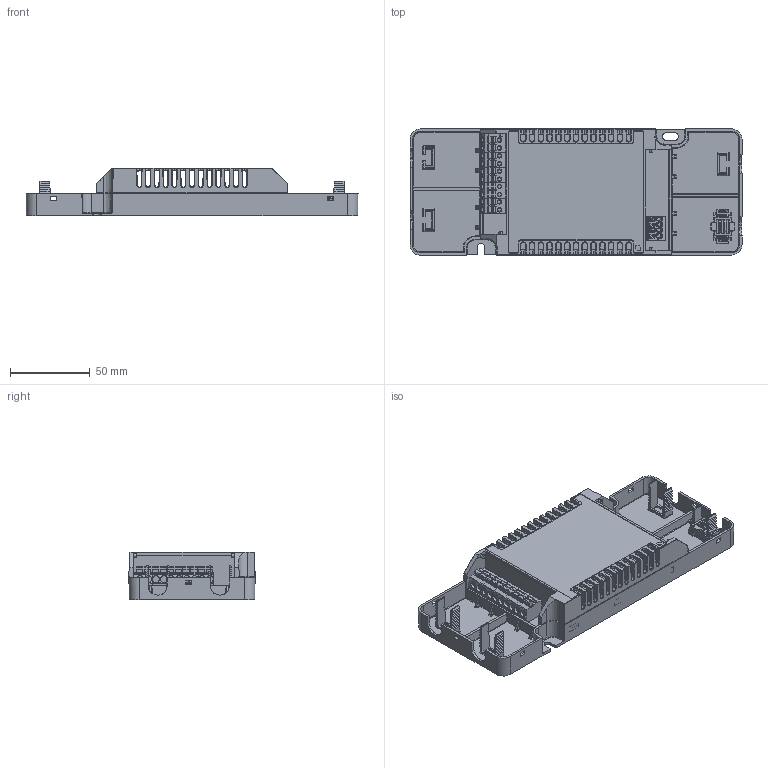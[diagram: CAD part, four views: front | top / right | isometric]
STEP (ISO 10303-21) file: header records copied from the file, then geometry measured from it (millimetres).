
FILE_DESCRIPTION (( 'STEP AP203' ), '1' );
FILE_NAME ('LC51SE-CC-900-1400-LOOP-WOSR.STEP', '2018-06-20T11:47:06', ( '' ), ( '' ), 'SwSTEP 2.0', 'SolidWorks 2014', '' );
FILE_SCHEMA (( 'CONFIG_CONTROL_DESIGN' ));
Length unit declared in the file: millimetre
Products named in the file (9): pcb; LC51SE-CC-900-1400-LOOP-WOSR; 50w monsteri_pohja 2; 50w monsteri_kansi; nipsu3; pCB; 4n; 804-102; 804-102_EI PﾄﾄTYLISUA
Assembly tree (11 placements, depth 3):
  LC51SE-CC-900-1400-LOOP-WOSR
    50w monsteri_pohja 2
    50w monsteri_kansi
    nipsu3
    pcb
      pCB
      4n
      804-102
      804-102_EI PﾄﾄTYLISUA  x4
Bounding box: 207.8 x 79 x 30 mm (x, y, z)
Volume: 89548.7 mm3; surface area: 110531.7 mm2
Topology: 10 solids, 12 shells, 3058 faces, 8013 edges, 4983 vertices
Faces by surface type: plane 1437, cylinder 1008, bspline 435, sphere 98, cone 53, torus 27
Entity records: 92380 total; most frequent: CARTESIAN_POINT 28765, ORIENTED_EDGE 14462, DIRECTION 11649, EDGE_CURVE 7231, VERTEX_POINT 4485, LINE 4483, VECTOR 4483, AXIS2_PLACEMENT_3D 3583
